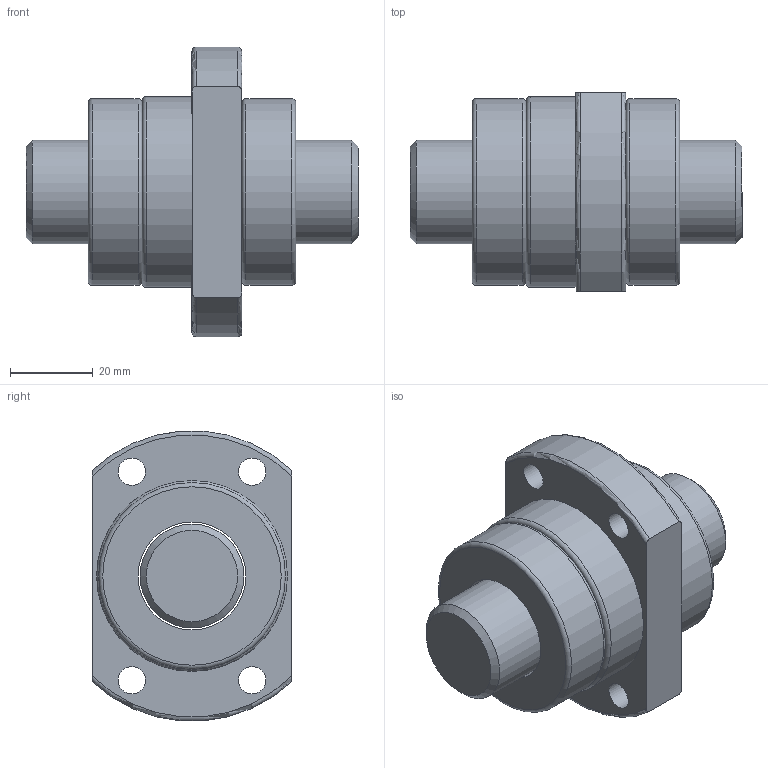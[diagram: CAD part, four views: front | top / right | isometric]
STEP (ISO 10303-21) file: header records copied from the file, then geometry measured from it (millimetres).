
FILE_DESCRIPTION(/* description */ (''),/* implementation_level */ '2;1');
FILE_NAME(/* name */ 'SFE2550',/* time_stamp */ '2007-10-26T11:57:42+08:00',/* author */ (''),/* organization */ (''),/* preprocessor_version */ 'ST-DEVELOPER v9',/* originating_system */ 'EDS PLM SOLUTIONS - UNIGRAPHICS NX 1.0',/* authorisation */ '');
FILE_SCHEMA (('CONFIG_CONTROL_DESIGN'));
Length unit declared in the file: millimetre
Products named in the file (1): FANNDA0400g4
Bounding box: 80 x 48 x 69.75 mm (x, y, z)
Volume: 108897.8 mm3; surface area: 28752.9 mm2
Topology: 4 solids, 4 shells, 35 faces, 71 edges, 45 vertices
Faces by surface type: cylinder 13, plane 11, torus 9, cone 2
Full cylindrical faces by diameter (mm): 6.6 x4, 25 x1, 26 x3, 45 x2, 46 x1
Entity records: 968 total; most frequent: CARTESIAN_POINT 174, DIRECTION 154, ORIENTED_EDGE 106, AXIS2_PLACEMENT_3D 73, EDGE_LOOP 68, EDGE_CURVE 53, FACE_BOUND 49, VERTEX_POINT 45
